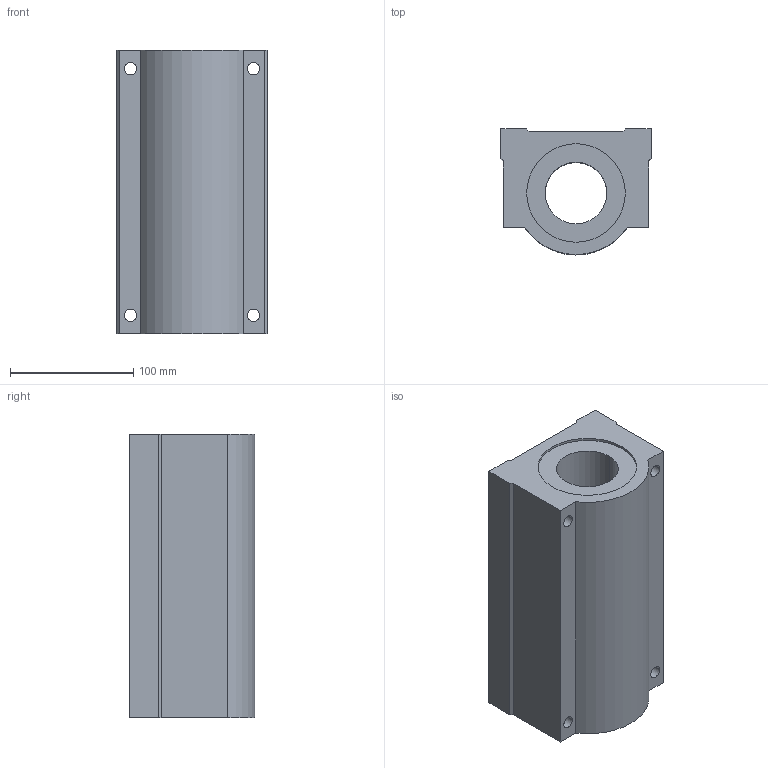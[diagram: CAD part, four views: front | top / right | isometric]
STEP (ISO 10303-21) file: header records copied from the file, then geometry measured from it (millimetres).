
FILE_DESCRIPTION((''),'2;1');
FILE_NAME('C:\Documents and Settings\ｿﾀﾀ蠑ｷ1\ｹﾙﾅﾁ ﾈｭｸ饅\ｺﾎﾇｰﾆﾄﾀﾏ\ﾁｦﾇｰ\SCE__WUU\SCE50WUU.stp','2005-06-22T15:45:32',('ｿﾀﾀ蠑ｷ1'),(''),'Autodesk Inventor 9','Autodesk Inventor 9','');
FILE_SCHEMA(('AUTOMOTIVE_DESIGN { 1 0 10303 214 1 1 1 1 }'));
Length unit declared in the file: millimetre
Products named in the file (1): SCE__UU
Bounding box: 122 x 102 x 230 mm (x, y, z)
Volume: 1963995 mm3; surface area: 159496.1 mm2
Topology: 1 solids, 1 shells, 32 faces, 84 edges, 56 vertices
Faces by surface type: plane 17, bspline 8, cylinder 7
Entity records: 1145 total; most frequent: CARTESIAN_POINT 309, ORIENTED_EDGE 168, DIRECTION 164, EDGE_CURVE 84, VERTEX_POINT 56, AXIS2_PLACEMENT_3D 55, VECTOR 54, LINE 54
